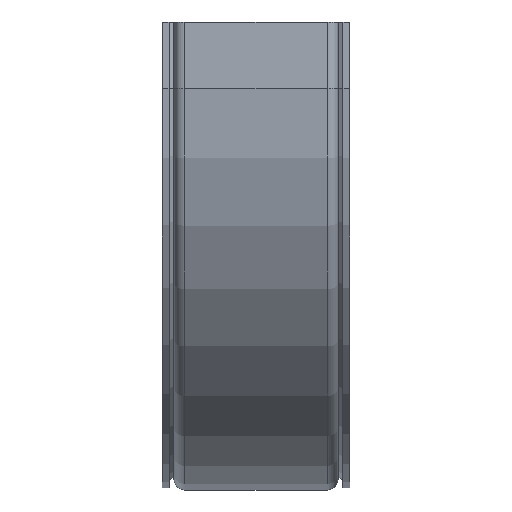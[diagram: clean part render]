
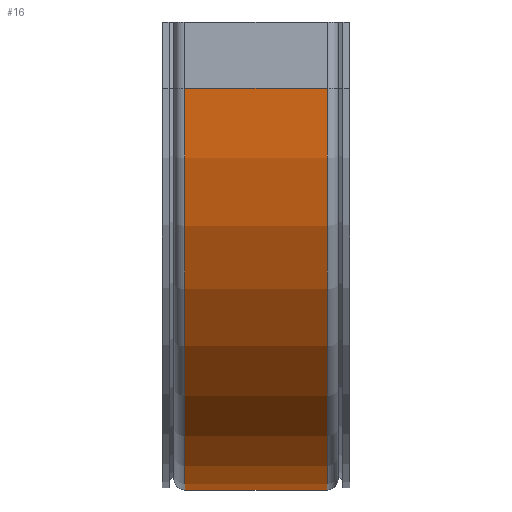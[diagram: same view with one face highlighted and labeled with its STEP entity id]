
A CAD part, left-side view. The second image highlights one B-rep face of the part: STEP entity #16.
In plain terms, the highlighted cylindrical face has radius 242.5 mm (diameter 485 mm), a partial arc.
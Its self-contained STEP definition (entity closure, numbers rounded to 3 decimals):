
#16 = ADVANCED_FACE ( 'NONE', ( #2424 ), #2046, .T. ) ;
#598 = DIRECTION ( 'NONE',  ( 0., 0., 1. ) ) ;
#634 = DIRECTION ( 'NONE',  ( 0., 1., 0. ) ) ;
#723 = CARTESIAN_POINT ( 'NONE',  ( 200., -43., -40. ) ) ;
#930 = CARTESIAN_POINT ( 'NONE',  ( 442.5, 43., -40. ) ) ;
#1096 = CARTESIAN_POINT ( 'NONE',  ( -42.5, 43., -40. ) ) ;
#1254 = AXIS2_PLACEMENT_3D ( 'NONE', #1719, #5576, #5142 ) ;
#1420 = DIRECTION ( 'NONE',  ( 0., 0., 1. ) ) ;
#1476 = DIRECTION ( 'NONE',  ( 0., 1., 0. ) ) ;
#1534 = CARTESIAN_POINT ( 'NONE',  ( 200., 43., -40. ) ) ;
#1661 = CARTESIAN_POINT ( 'NONE',  ( 442.5, 43., -40. ) ) ;
#1712 = EDGE_LOOP ( 'NONE', ( #2844, #2879, #3070, #3083 ) ) ;
#1719 = CARTESIAN_POINT ( 'NONE',  ( 200., 0., -40. ) ) ;
#1721 = DIRECTION ( 'NONE',  ( 0., -1., 0. ) ) ;
#1843 = VERTEX_POINT ( 'NONE', #930 ) ;
#2046 = CYLINDRICAL_SURFACE ( 'NONE', #1254, 242.5 ) ;
#2201 = EDGE_CURVE ( 'NONE', #5037, #2402, #2575, .T. ) ;
#2304 = CARTESIAN_POINT ( 'NONE',  ( 442.5, -43., -40. ) ) ;
#2402 = VERTEX_POINT ( 'NONE', #1096 ) ;
#2424 = FACE_OUTER_BOUND ( 'NONE', #1712, .T. ) ;
#2549 = VECTOR ( 'NONE', #3251, 1000. ) ;
#2575 = LINE ( 'NONE', #3097, #2549 ) ;
#2844 = ORIENTED_EDGE ( 'NONE', *, *, #2201, .T. ) ;
#2879 = ORIENTED_EDGE ( 'NONE', *, *, #3801, .F. ) ;
#3070 = ORIENTED_EDGE ( 'NONE', *, *, #3805, .T. ) ;
#3083 = ORIENTED_EDGE ( 'NONE', *, *, #3812, .T. ) ;
#3097 = CARTESIAN_POINT ( 'NONE',  ( -42.5, 0., -40. ) ) ;
#3251 = DIRECTION ( 'NONE',  ( 0., 1., 0. ) ) ;
#3801 = EDGE_CURVE ( 'NONE', #1843, #2402, #5178, .T. ) ;
#3805 = EDGE_CURVE ( 'NONE', #1843, #4400, #5160, .T. ) ;
#3812 = EDGE_CURVE ( 'NONE', #4400, #5037, #5091, .T. ) ;
#3856 = AXIS2_PLACEMENT_3D ( 'NONE', #723, #634, #598 ) ;
#3936 = AXIS2_PLACEMENT_3D ( 'NONE', #1534, #1476, #1420 ) ;
#4400 = VERTEX_POINT ( 'NONE', #2304 ) ;
#5037 = VERTEX_POINT ( 'NONE', #5385 ) ;
#5091 = CIRCLE ( 'NONE', #3856, 242.5 ) ;
#5142 = DIRECTION ( 'NONE',  ( 0., 0., 1. ) ) ;
#5154 = VECTOR ( 'NONE', #1721, 1000. ) ;
#5160 = LINE ( 'NONE', #1661, #5154 ) ;
#5178 = CIRCLE ( 'NONE', #3936, 242.5 ) ;
#5385 = CARTESIAN_POINT ( 'NONE',  ( -42.5, -43., -40. ) ) ;
#5576 = DIRECTION ( 'NONE',  ( 0., 1., 0. ) ) ;
